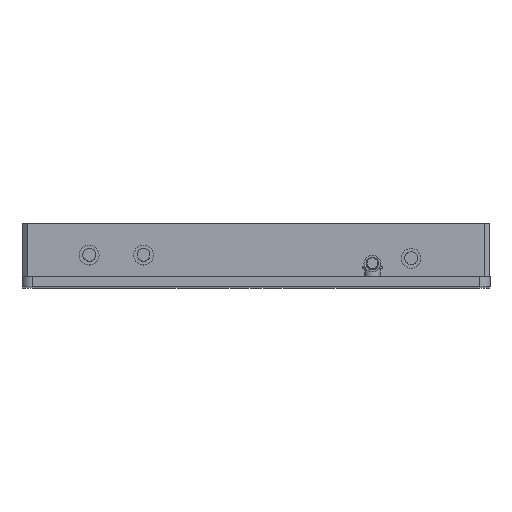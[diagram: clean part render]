
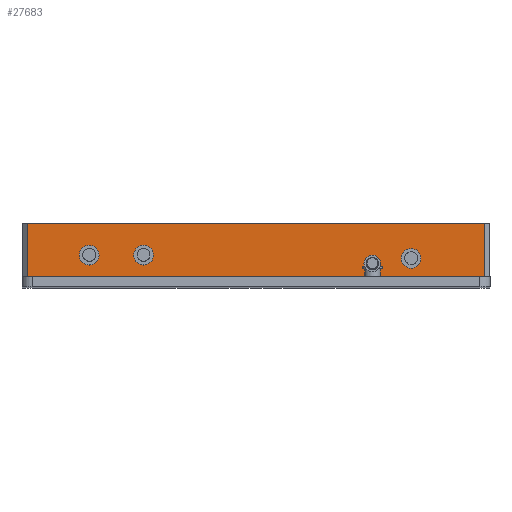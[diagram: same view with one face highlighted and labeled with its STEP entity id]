
A CAD part, top view. The second image highlights one B-rep face of the part: STEP entity #27683.
In plain terms, the highlighted planar face has unit normal (0, 0, 1).
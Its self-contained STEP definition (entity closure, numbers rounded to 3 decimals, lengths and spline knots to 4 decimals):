
#1539=FACE_BOUND('',#4163,.T.);
#1540=FACE_BOUND('',#4164,.T.);
#1541=FACE_BOUND('',#4165,.T.);
#1742=PLANE('',#29215);
#2671=FACE_OUTER_BOUND('',#4162,.T.);
#4162=EDGE_LOOP('',(#18314,#18315,#18316,#18317));
#4163=EDGE_LOOP('',(#18318,#18319));
#4164=EDGE_LOOP('',(#18320,#18321));
#4165=EDGE_LOOP('',(#18322,#18323));
#5867=LINE('',#35573,#8669);
#5870=LINE('',#35579,#8672);
#5871=LINE('',#35580,#8673);
#5872=LINE('',#35581,#8674);
#8669=VECTOR('',#30448,0.3937);
#8672=VECTOR('',#30453,0.3937);
#8673=VECTOR('',#30454,0.3937);
#8674=VECTOR('',#30455,0.3937);
#11446=CIRCLE('',#29216,0.1496);
#11447=CIRCLE('',#29217,0.1496);
#11448=CIRCLE('',#29218,0.1496);
#11449=CIRCLE('',#29219,0.1496);
#11450=CIRCLE('',#29220,0.1496);
#11451=CIRCLE('',#29221,0.1496);
#11634=VERTEX_POINT('',#35571);
#11635=VERTEX_POINT('',#35572);
#11636=VERTEX_POINT('',#35577);
#11637=VERTEX_POINT('',#35578);
#11638=VERTEX_POINT('',#35582);
#11639=VERTEX_POINT('',#35583);
#11640=VERTEX_POINT('',#35586);
#11641=VERTEX_POINT('',#35587);
#11642=VERTEX_POINT('',#35590);
#11643=VERTEX_POINT('',#35591);
#14301=EDGE_CURVE('',#11634,#11635,#5867,.T.);
#14304=EDGE_CURVE('',#11636,#11637,#5870,.T.);
#14305=EDGE_CURVE('',#11635,#11637,#5871,.T.);
#14306=EDGE_CURVE('',#11634,#11636,#5872,.T.);
#14307=EDGE_CURVE('',#11638,#11639,#11446,.T.);
#14308=EDGE_CURVE('',#11639,#11638,#11447,.T.);
#14309=EDGE_CURVE('',#11640,#11641,#11448,.T.);
#14310=EDGE_CURVE('',#11641,#11640,#11449,.T.);
#14311=EDGE_CURVE('',#11642,#11643,#11450,.T.);
#14312=EDGE_CURVE('',#11643,#11642,#11451,.T.);
#18314=ORIENTED_EDGE('',*,*,#14304,.T.);
#18315=ORIENTED_EDGE('',*,*,#14305,.F.);
#18316=ORIENTED_EDGE('',*,*,#14301,.F.);
#18317=ORIENTED_EDGE('',*,*,#14306,.T.);
#18318=ORIENTED_EDGE('',*,*,#14307,.T.);
#18319=ORIENTED_EDGE('',*,*,#14308,.T.);
#18320=ORIENTED_EDGE('',*,*,#14309,.T.);
#18321=ORIENTED_EDGE('',*,*,#14310,.T.);
#18322=ORIENTED_EDGE('',*,*,#14311,.T.);
#18323=ORIENTED_EDGE('',*,*,#14312,.T.);
#27683=ADVANCED_FACE('',(#2671,#1539,#1540,#1541),#1742,.T.);
#29215=AXIS2_PLACEMENT_3D('',#35576,#30451,#30452);
#29216=AXIS2_PLACEMENT_3D('',#35584,#30456,#30457);
#29217=AXIS2_PLACEMENT_3D('',#35585,#30458,#30459);
#29218=AXIS2_PLACEMENT_3D('',#35588,#30460,#30461);
#29219=AXIS2_PLACEMENT_3D('',#35589,#30462,#30463);
#29220=AXIS2_PLACEMENT_3D('',#35592,#30464,#30465);
#29221=AXIS2_PLACEMENT_3D('',#35593,#30466,#30467);
#30448=DIRECTION('',(0.,1.,0.));
#30451=DIRECTION('center_axis',(0.,0.,
1.));
#30452=DIRECTION('ref_axis',(1.,0.,0.));
#30453=DIRECTION('',(0.,1.,0.));
#30454=DIRECTION('',(1.,0.,0.));
#30455=DIRECTION('',(1.,0.,0.));
#30456=DIRECTION('center_axis',(0.,0.,
-1.));
#30457=DIRECTION('ref_axis',(1.,0.,0.));
#30458=DIRECTION('center_axis',(0.,0.,
-1.));
#30459=DIRECTION('ref_axis',(1.,0.,0.));
#30460=DIRECTION('center_axis',(0.,0.,
-1.));
#30461=DIRECTION('ref_axis',(1.,0.,0.));
#30462=DIRECTION('center_axis',(0.,0.,
-1.));
#30463=DIRECTION('ref_axis',(1.,0.,0.));
#30464=DIRECTION('center_axis',(0.,0.,
-1.));
#30465=DIRECTION('ref_axis',(1.,0.,0.));
#30466=DIRECTION('center_axis',(0.,0.,
-1.));
#30467=DIRECTION('ref_axis',(1.,0.,0.));
#35571=CARTESIAN_POINT('',(-11.5726,-0.2756,0.52));
#35572=CARTESIAN_POINT('',(-11.5726,0.5315,0.52));
#35573=CARTESIAN_POINT('',(-11.5726,0.374,0.52));
#35576=CARTESIAN_POINT('Origin',(-11.5726,0.374,0.52));
#35577=CARTESIAN_POINT('',(-4.6041,-0.2756,0.52));
#35578=CARTESIAN_POINT('',(-4.6041,0.5315,0.52));
#35579=CARTESIAN_POINT('',(-4.6041,0.374,0.52));
#35580=CARTESIAN_POINT('',(-11.5726,0.5315,0.52));
#35581=CARTESIAN_POINT('',(-11.5726,-0.2756,0.52));
#35582=CARTESIAN_POINT('',(-9.6513,0.0492,0.52));
#35583=CARTESIAN_POINT('',(-9.9506,0.0492,0.52));
#35584=CARTESIAN_POINT('Origin',(-9.801,0.0492,0.52));
#35585=CARTESIAN_POINT('Origin',(-9.801,0.0492,0.52));
#35586=CARTESIAN_POINT('',(-10.4781,0.0492,0.52));
#35587=CARTESIAN_POINT('',(-10.7773,0.0492,0.52));
#35588=CARTESIAN_POINT('Origin',(-10.6277,0.0492,0.52));
#35589=CARTESIAN_POINT('Origin',(-10.6277,0.0492,0.52));
#35590=CARTESIAN_POINT('',(-5.5765,0.,0.52));
#35591=CARTESIAN_POINT('',(-5.8758,0.,0.52));
#35592=CARTESIAN_POINT('Origin',(-5.7261,0.,
0.52));
#35593=CARTESIAN_POINT('Origin',(-5.7261,0.,
0.52));
